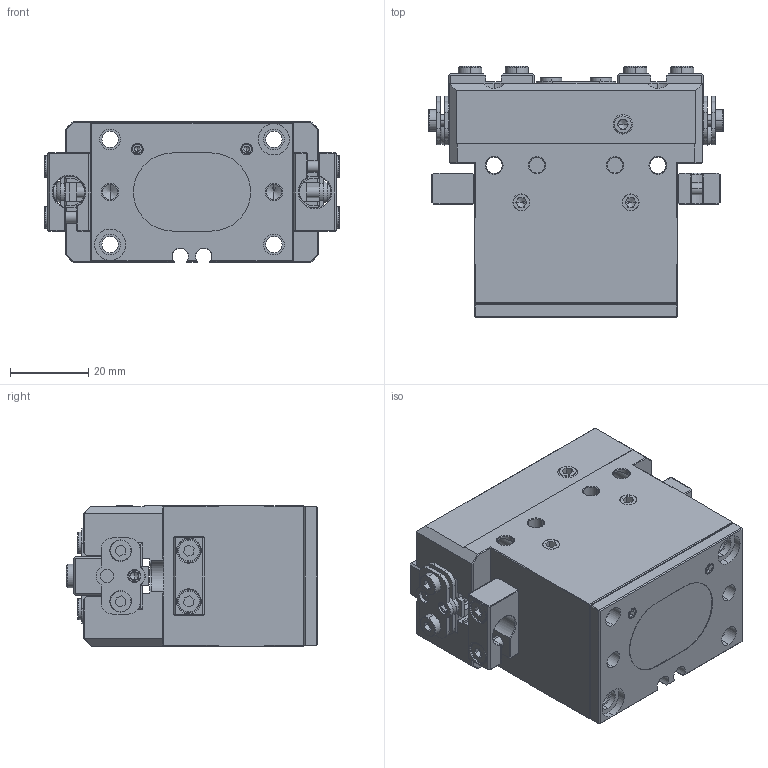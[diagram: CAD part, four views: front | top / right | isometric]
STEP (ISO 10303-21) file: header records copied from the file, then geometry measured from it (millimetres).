
FILE_DESCRIPTION (( 'STEP AP203' ), '1' );
FILE_NAME ('EZ6-NC.STEP', '2026-09-23T06:54:44', ( '' ), ( '' ), 'SwSTEP 2.0', 'SolidWorks 2026', '' );
FILE_SCHEMA (( 'CONFIG_CONTROL_DESIGN' ));
Products named in the file (1): EZ6-NC
Bounding box: 75.52 x 64.4 x 36 mm (x, y, z)
Volume: 112464 mm3; surface area: 43457.7 mm2
Topology: 37 solids, 37 shells, 1501 faces, 3865 edges, 2449 vertices
Faces by surface type: plane 772, cylinder 383, cone 183, torus 79, bspline 74, sphere 10
Entity records: 49336 total; most frequent: CARTESIAN_POINT 12913, ORIENTED_EDGE 7592, DIRECTION 7420, EDGE_CURVE 3796, AXIS2_PLACEMENT_3D 2531, VERTEX_POINT 2447, LINE 2358, VECTOR 2358
